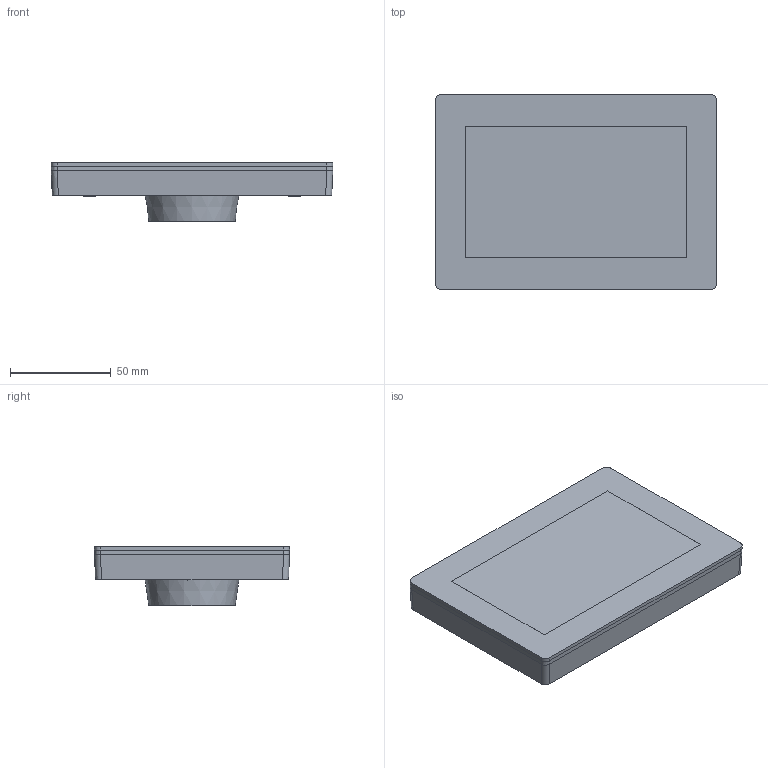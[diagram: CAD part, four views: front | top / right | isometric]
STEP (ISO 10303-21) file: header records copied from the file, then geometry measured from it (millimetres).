
FILE_DESCRIPTION(/* description */ ('STEP AP242','CAx-IF Rec.Pracs.---Representation and Presentation of Product Manufacturing Information (PMI)---4.0---2014-10-13','CAx-IF Rec.Pracs.---3D Tessellated Geometry---0.4---2014-09-14','2;1'),/* implementation_level */ '2;1');
FILE_NAME(/* name */ '6634d3435996e81fac3b194f',/* time_stamp */ '2024-05-03T12:06:29Z',/* author */ (''),/* organization */ (''),/* preprocessor_version */ 'ST-DEVELOPER v20',/* originating_system */ ' ',/* authorisation */ ' ');
FILE_SCHEMA (('AP242_MANAGED_MODEL_BASED_3D_ENGINEERING_MIM_LF { 1 0 10303 442 1 1 4 }'));
Length unit declared in the file: metre
Products named in the file (1): Touch 5 B
Bounding box: 140 x 97 x 29.45 mm (x, y, z)
Volume: 226913.1 mm3; surface area: 39827.8 mm2
Topology: 1 solids, 1 shells, 1049 faces, 2666 edges, 1756 vertices
Faces by surface type: plane 803, cylinder 145, torus 68, cone 21, bspline 12
Full cylindrical faces by diameter (mm): 0.407 x7, 0.527 x7, 0.647 x7, 0.74 x7, 1.11 x1, 1.75 x1, 7.4 x1, 41 x1
Entity records: 31953 total; most frequent: CARTESIAN_POINT 5947, ORIENTED_EDGE 5250, DIRECTION 5177, EDGE_CURVE 2625, LINE 2109, VECTOR 2109, VERTEX_POINT 1756, AXIS2_PLACEMENT_3D 1534
